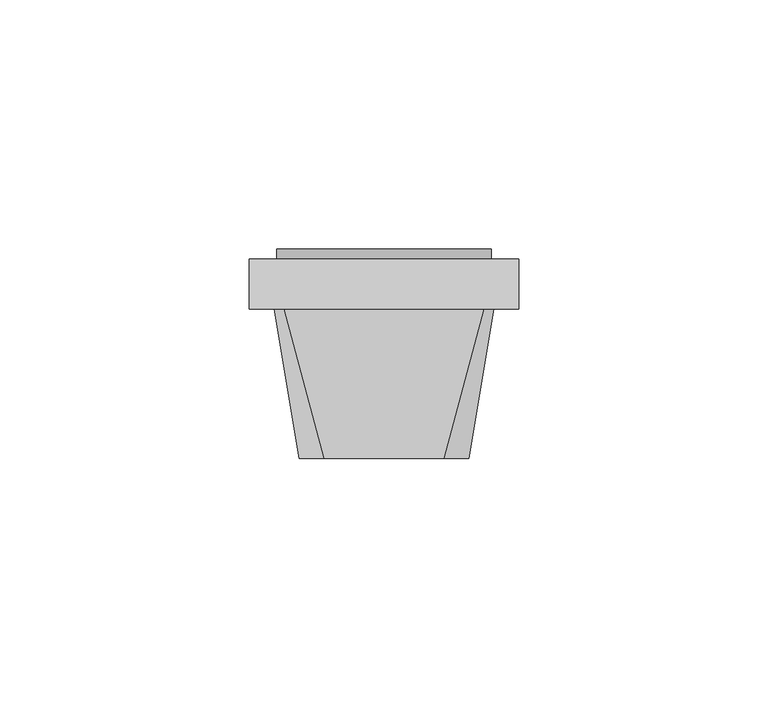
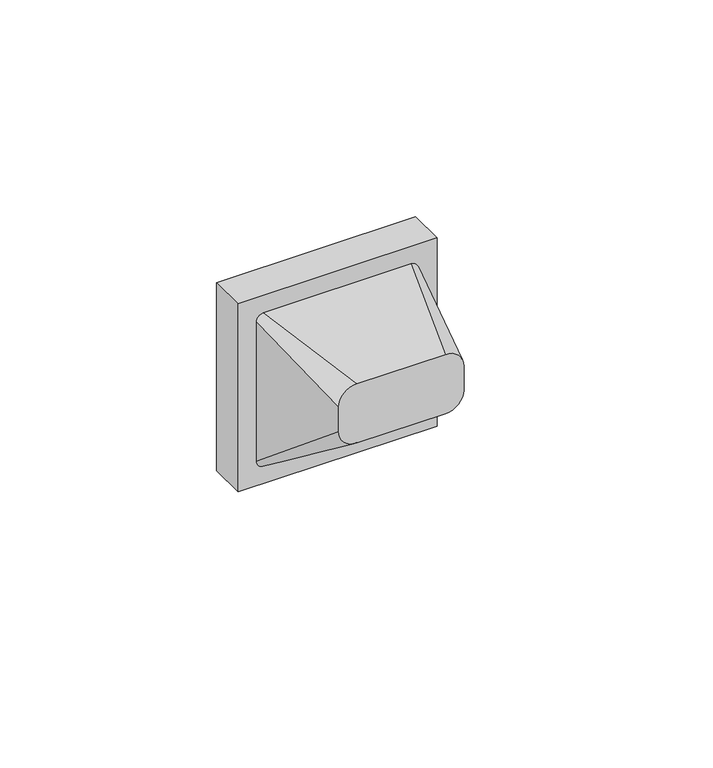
"""IFC4 building model written with IfcOpenShell, lengths in millimetres: proxy geometry, IEK_Brite_Механизм розетки 230В : 230 В PE+шт._РС14-1-0-БрА."""

from ifc_helpers import new_model, si_unit, point, frame, frame_2d, origin, origin_2d, place, context, project, spatial, polyline, circle_curve, ellipse_curve, trimmed, segment, composite_curve, outline, extrude, source, transform, mapped, element, save
from ifc_brep_helpers import plane_surface, cylinder_surface, revolved_surface, spline_surface, advanced_brep


def electrical_fixtures_c40738ce(model_context):
    return source(origin(), model_context, "Body", "SolidModel", [
        advanced_brep(
        [(-12.0, -30.0, 17.0), (-17.0, -30.0, 12.0), (-17.0, -30.0, 5.0), (-12.0, -30.0, 0.0), (12.0, -30.0, 0.0), (17.0, -30.0, 5.0), (17.0, -30.0, 12.0), (12.0, -30.0, 17.0), (-20.0, 0.0, 22.0), (20.0, 0.0, 22.0), (22.0, 0.0, 20.0), (22.0, 0.0, -20.0), (20.0, 0.0, -22.0), (-20.0, 0.0, -22.0), (-22.0, 0.0, -20.0), (-22.0, 0.0, 20.0), (-11.8753617, 0.0, 0.0), (-6.3904783, 0.0, 0.0), (-3.0105286, 0.0, 0.0), (3.0105286, 0.0, 0.0), (6.3904783, 0.0, 0.0), (11.8753617, 0.0, 0.0), (-1.7917908, 0.0, 19.3280847), (-1.7917908, 0.0, 16.8280847), (0.0, 0.0, 16.8280847), (1.7917908, 0.0, 16.8280847), (1.7917908, 0.0, 19.3280847), (0.0, 0.0, 19.3280847), (-1.7917908, 0.0, -19.3280847), (0.0, 0.0, -19.3280847), (1.7917908, 0.0, -19.3280847), (1.7917908, 0.0, -16.8280847), (0.0, 0.0, -16.8280847), (-1.7917908, 0.0, -16.8280847), (0.0, -3.6435209, -19.3280847), (-1.7917908, -3.6435209, -19.3280847), (-1.7917908, -7.0526118, -16.8280847), (0.0, -7.0526118, -16.8280847), (1.7917908, -7.0526118, -16.8280847), (1.7917908, -3.6435209, -19.3280847), (-11.8753617, -13.4962918, 0.0), (-6.3904783, -13.4962918, 0.0), (-3.0105286, -13.4962918, 0.0), (3.0105286, -13.4962918, 0.0), (6.3904783, -13.4962918, 0.0), (11.8753617, -13.4962918, 0.0), (-1.7917908, -13.4962918, 19.3280847), (0.0, -13.4962918, 19.3280847), (1.7917908, -13.4962918, 19.3280847), (1.7917908, -13.4962918, 16.8280847), (0.0, -13.4962918, 16.8280847), (-1.7917908, -13.4962918, 16.8280847)],
        [
            (0, 1, circle_curve(frame((-12.0, -30.0, 12.0), z_axis=(0.0, -1.0, 0.0), x_axis=(1.0, 0.0, 0.0)), 5.0)),
            (1, 2),
            (2, 3, circle_curve(frame((-12.0, -30.0, 5.0), z_axis=(0.0, -1.0, 0.0), x_axis=(1.0, 0.0, 0.0)), 5.0)),
            (3, 4),
            (4, 5, circle_curve(frame((12.0, -30.0, 5.0), z_axis=(0.0, -1.0, 0.0), x_axis=(1.0, 0.0, 0.0)), 5.0)),
            (5, 6),
            (6, 7, circle_curve(frame((12.0, -30.0, 12.0), z_axis=(0.0, -1.0, 0.0), x_axis=(1.0, 0.0, 0.0)), 5.0)),
            (7, 0),
            (8, 9),
            (9, 10, circle_curve(frame((20.0, 0.0, 20.0), z_axis=(0.0, 1.0, 0.0), x_axis=(1.0, 0.0, 0.0)), 2.0)),
            (10, 11),
            (11, 12, circle_curve(frame((20.0, 0.0, -20.0), z_axis=(0.0, 1.0, 0.0), x_axis=(1.0, 0.0, 0.0)), 2.0)),
            (12, 13),
            (13, 14, circle_curve(frame((-20.0, 0.0, -20.0), z_axis=(0.0, 1.0, 0.0), x_axis=(1.0, 0.0, 0.0)), 2.0)),
            (14, 15),
            (15, 8, circle_curve(frame((-20.0, 0.0, 20.0), z_axis=(0.0, 1.0, 0.0), x_axis=(1.0, 0.0, 0.0)), 2.0)),
            (16, 17, circle_curve(frame((-9.13292, 0.0, 0.0), z_axis=(0.0, -1.0, 0.0), x_axis=(1.0, 0.0, 0.0)), 2.7424417)),
            (17, 16, circle_curve(frame((-9.13292, 0.0, 0.0), z_axis=(0.0, -1.0, 0.0), x_axis=(1.0, 0.0, 0.0)), 2.7424417)),
            (18, 19, circle_curve(frame((0.0, 0.0, 0.0), z_axis=(0.0, -1.0, 0.0), x_axis=(1.0, 0.0, 0.0)), 3.0105286)),
            (19, 18, circle_curve(frame((0.0, 0.0, 0.0), z_axis=(0.0, -1.0, 0.0), x_axis=(1.0, 0.0, 0.0)), 3.0105286)),
            (20, 21, circle_curve(frame((9.13292, 0.0, 0.0), z_axis=(0.0, -1.0, 0.0), x_axis=(1.0, 0.0, 0.0)), 2.7424417)),
            (21, 20, circle_curve(frame((9.13292, 0.0, 0.0), z_axis=(0.0, -1.0, 0.0), x_axis=(1.0, 0.0, 0.0)), 2.7424417)),
            (22, 23),
            (23, 24),
            (24, 25),
            (25, 26),
            (26, 27),
            (27, 22),
            (28, 29),
            (29, 30),
            (30, 31),
            (31, 32),
            (32, 33),
            (33, 28),
            (7, 9),
            (8, 0),
            (6, 10),
            (5, 11),
            (4, 12),
            (3, 13),
            (34, 35),
            (35, 36),
            (36, 37),
            (37, 38),
            (38, 39),
            (39, 34),
            (2, 14),
            (1, 15),
            (40, 41, circle_curve(frame((-9.13292, -13.4962918, 0.0), z_axis=(0.0, 1.0, 0.0), x_axis=(1.0, 0.0, 0.0)), 2.7424417)),
            (41, 40, circle_curve(frame((-9.13292, -13.4962918, 0.0), z_axis=(0.0, 1.0, 0.0), x_axis=(1.0, 0.0, 0.0)), 2.7424417)),
            (42, 43, circle_curve(frame((0.0, -13.4962918, 0.0), z_axis=(0.0, 1.0, 0.0), x_axis=(1.0, 0.0, 0.0)), 3.0105286)),
            (43, 42, circle_curve(frame((0.0, -13.4962918, 0.0), z_axis=(0.0, 1.0, 0.0), x_axis=(1.0, 0.0, 0.0)), 3.0105286)),
            (44, 45, circle_curve(frame((9.13292, -13.4962918, 0.0), z_axis=(0.0, 1.0, 0.0), x_axis=(1.0, 0.0, 0.0)), 2.7424417)),
            (45, 44, circle_curve(frame((9.13292, -13.4962918, 0.0), z_axis=(0.0, 1.0, 0.0), x_axis=(1.0, 0.0, 0.0)), 2.7424417)),
            (46, 47),
            (47, 48),
            (48, 49),
            (49, 50),
            (50, 51),
            (51, 46),
            (41, 17),
            (16, 40),
            (43, 19),
            (18, 42),
            (45, 21),
            (20, 44),
            (51, 23),
            (22, 46),
            (50, 24),
            (49, 25),
            (48, 26),
            (47, 27),
            (28, 35),
            (34, 29),
            (39, 30),
            (38, 31),
            (37, 32),
            (36, 33),
        ],
        [
            plane_surface(frame((0.0, -30.0, 8.5), z_axis=(0.0, -1.0, 0.0), x_axis=(-1.0, 0.0, 0.0))),
            plane_surface(frame((0.0, 0.0, 0.0), z_axis=(0.0, 1.0, 0.0), x_axis=(-1.0, 0.0, 0.0))),
            plane_surface(frame((0.0, 0.0, 22.0), z_axis=(0.0, -0.16439898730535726, 0.9863939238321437), x_axis=(-1.0, 0.0, 0.0))),
            spline_surface(2, 1, [[(22.0, 0.0, 20.0), (17.0, -30.0, 12.0)], [(22.0, 0.0, 22.0), (17.0, -30.0, 17.0)], [(20.0, 0.0, 22.0), (12.0, -30.0, 17.0)]], [3, 3], [2, 2], [0.0, 1.0], [0.0, 1.0], weights=[[1.0, 1.0], [0.7071067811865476, 0.7071067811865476], [1.0, 1.0]]),
            plane_surface(frame((22.0, 0.0, 0.0), z_axis=(0.9863939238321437, -0.1643989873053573, 0.0), x_axis=(0.0, 0.0, 1.0))),
            spline_surface(2, 1, [[(20.0, 0.0, -22.0), (12.0, -30.0, 0.0)], [(22.0, 0.0, -22.0), (17.0, -30.0, 0.0)], [(22.0, 0.0, -20.0), (17.0, -30.0, 5.0)]], [3, 3], [2, 2], [0.0, 1.0], [0.0, 1.0], weights=[[1.0, 1.0], [0.7071067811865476, 0.7071067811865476], [1.0, 1.0]]),
            plane_surface(frame((0.0, 0.0, -22.0), z_axis=(0.0, -0.591363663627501, -0.8064049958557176), x_axis=(1.0, 0.0, 0.0))),
            spline_surface(2, 1, [[(-22.0, 0.0, -20.0), (-17.0, -30.0, 5.0)], [(-22.0, 0.0, -22.0), (-17.0, -30.0, 0.0)], [(-20.0, 0.0, -22.0), (-12.0, -30.0, 0.0)]], [3, 3], [2, 2], [0.0, 1.0], [0.0, 1.0], weights=[[1.0, 1.0], [0.7071067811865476, 0.7071067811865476], [1.0, 1.0]]),
            plane_surface(frame((-22.0, 0.0, 0.0), z_axis=(-0.9863939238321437, -0.1643989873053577, 0.0), x_axis=(0.0, 0.0, -1.0))),
            spline_surface(2, 1, [[(-20.0, 0.0, 22.0), (-12.0, -30.0, 17.0)], [(-22.0, 0.0, 22.0), (-17.0, -30.0, 17.0)], [(-22.0, 0.0, 20.0), (-17.0, -30.0, 12.0)]], [3, 3], [2, 2], [0.0, 1.0], [0.0, 1.0], weights=[[1.0, 1.0], [0.7071067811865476, 0.7071067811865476], [1.0, 1.0]]),
            plane_surface(frame((-6.3904783, -13.4962918, 0.0), z_axis=(0.0, 1.0, 0.0), x_axis=(0.0, 0.0, 1.0))),
            revolved_surface(polyline([(-6.3904783, -13.4962918, 0.0), (-6.3904783, 0.0, 0.0)]), (-9.13292, 0.0, 0.0), (0.0, -1.0, 0.0)),
            revolved_surface(polyline([(3.0105286, -13.4962918, 0.0), (3.0105286, 0.0, 0.0)]), (0.0, -2.0, 0.0), (0.0, -1.0, 0.0)),
            revolved_surface(polyline([(11.875361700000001, -13.4962918, 0.0), (11.875361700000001, 0.0, 0.0)]), (9.13292, -2.0, 0.0), (0.0, -1.0, 0.0)),
            plane_surface(frame((-1.7917908, -13.4962918, 19.3280847), z_axis=(1.0, 0.0, 0.0), x_axis=(0.0, 1.0, 0.0))),
            plane_surface(frame((-1.7917908, -13.4962918, 16.8280847), z_axis=(0.0, 0.0, 1.0), x_axis=(0.0, 1.0, 0.0))),
            plane_surface(frame((0.0, -13.4962918, 16.8280847), z_axis=(0.0, 0.0, 1.0), x_axis=(0.0, 1.0, 0.0))),
            plane_surface(frame((1.7917908, -13.4962918, 16.8280847), z_axis=(-1.0, 0.0, 0.0), x_axis=(0.0, 1.0, 0.0))),
            plane_surface(frame((1.7917908, -13.4962918, 19.3280847), z_axis=(0.0, 0.0, -1.0), x_axis=(0.0, 1.0, 0.0))),
            plane_surface(frame((0.0, -13.4962918, 19.3280847), z_axis=(0.0, 0.0, -1.0), x_axis=(0.0, 1.0, 0.0))),
            plane_surface(frame((-1.7917908, -13.4962918, -19.3280847), z_axis=(0.0, 0.0, 1.0), x_axis=(0.0, 1.0, 0.0))),
            plane_surface(frame((0.0, -13.4962918, -19.3280847), z_axis=(0.0, 0.0, 1.0), x_axis=(0.0, 1.0, 0.0))),
            plane_surface(frame((1.7917908, -13.4962918, -19.3280847), z_axis=(-1.0, 0.0, 0.0), x_axis=(0.0, 1.0, 0.0))),
            plane_surface(frame((1.7917908, -13.4962918, -16.8280847), z_axis=(0.0, 0.0, -1.0), x_axis=(0.0, 1.0, 0.0))),
            plane_surface(frame((0.0, -13.4962918, -16.8280847), z_axis=(0.0, 0.0, -1.0), x_axis=(0.0, 1.0, 0.0))),
            plane_surface(frame((-1.7917908, -13.4962918, -16.8280847), z_axis=(1.0, 0.0, 0.0), x_axis=(0.0, 1.0, 0.0))),
        ],
        [
            (0, [[1, 2, 3, 4, 5, 6, 7, 8]]),
            (1, [[9, 10, 11, 12, 13, 14, 15, 16], [17, 18], [19, 20], [21, 22], [23, 24, 25, 26, 27, 28], [29, 30, 31, 32, 33, 34]]),
            (2, [[-8, 35, -9, 36]]),
            (3, [[-7, 37, -10, -35]]),
            (4, [[-6, 38, -11, -37]]),
            (5, [[-5, 39, -12, -38]]),
            (6, [[-4, 40, -13, -39], [41, 42, 43, 44, 45, 46]]),
            (7, [[-3, 47, -14, -40]]),
            (8, [[-2, 48, -15, -47]]),
            (9, [[-1, -36, -16, -48]]),
            (10, [[49, 50]]),
            (10, [[51, 52]]),
            (10, [[53, 54]]),
            (10, [[55, 56, 57, 58, 59, 60]]),
            (11, [[-50, 61, -17, 62]]),
            (11, [[-49, -62, -18, -61]]),
            (12, [[-52, 63, -19, 64]]),
            (12, [[-51, -64, -20, -63]]),
            (13, [[-54, 65, -21, 66]]),
            (13, [[-53, -66, -22, -65]]),
            (14, [[-60, 67, -23, 68]]),
            (15, [[-59, 69, -24, -67]]),
            (16, [[-58, 70, -25, -69]]),
            (17, [[-57, 71, -26, -70]]),
            (18, [[-56, 72, -27, -71]]),
            (19, [[-55, -68, -28, -72]]),
            (20, [[73, -41, 74, -29]]),
            (21, [[-74, -46, 75, -30]]),
            (22, [[-75, -45, 76, -31]]),
            (23, [[-76, -44, 77, -32]]),
            (24, [[-77, -43, 78, -33]]),
            (25, [[-73, -34, -78, -42]]),
        ],
    ),
        advanced_brep(
        [(20.0, 0.0, 0.0), (20.0, 10.0, 0.0), (-20.0, 10.0, 0.0), (-20.0, 0.0, 0.0), (-27.0, 10.0, 27.0), (27.0, 10.0, 27.0), (27.0, 10.0, -27.0), (-27.0, 10.0, -27.0), (21.5, 10.0, 0.0), (-21.5, 10.0, 0.0), (-27.0, 0.0, 27.0), (-27.0, 0.0, -27.0), (27.0, 0.0, -27.0), (27.0, 0.0, 27.0), (-21.5, 12.0, 0.0), (21.5, 12.0, 0.0), (-20.0, 12.0, 0.0), (20.0, 12.0, 0.0)],
        [
            (0, 1),
            (1, 2, circle_curve(frame((0.0, 10.0, 0.0), z_axis=(0.0, 1.0, 0.0), x_axis=(1.0, 0.0, 0.0)), 20.0)),
            (2, 3),
            (3, 0, circle_curve(frame((0.0, 0.0, 0.0), z_axis=(0.0, -1.0, 0.0), x_axis=(1.0, 0.0, 0.0)), 20.0)),
            (0, 3, circle_curve(frame((0.0, 0.0, 0.0), z_axis=(0.0, -1.0, 0.0), x_axis=(1.0, 0.0, 0.0)), 20.0)),
            (2, 1, circle_curve(frame((0.0, 10.0, 0.0), z_axis=(0.0, 1.0, 0.0), x_axis=(1.0, 0.0, 0.0)), 20.0)),
            (4, 5),
            (5, 6),
            (6, 7),
            (7, 4),
            (8, 9, circle_curve(frame((0.0, 10.0, 0.0), z_axis=(0.0, -1.0, 0.0), x_axis=(-1.0, 0.0, 0.0)), 21.5)),
            (9, 8, circle_curve(frame((0.0, 10.0, 0.0), z_axis=(0.0, -1.0, 0.0), x_axis=(-1.0, 0.0, 0.0)), 21.5)),
            (10, 11),
            (11, 12),
            (12, 13),
            (13, 10),
            (7, 11),
            (10, 4),
            (6, 12),
            (5, 13),
            (14, 15, circle_curve(frame((0.0, 12.0, 0.0), z_axis=(0.0, 1.0, 0.0), x_axis=(-1.0, 0.0, 0.0)), 21.5)),
            (15, 14, circle_curve(frame((0.0, 12.0, 0.0), z_axis=(0.0, 1.0, 0.0), x_axis=(-1.0, 0.0, 0.0)), 21.5)),
            (16, 17, circle_curve(frame((0.0, 12.0, 0.0), z_axis=(0.0, -1.0, 0.0), x_axis=(-1.0, 0.0, 0.0)), 20.0)),
            (17, 16, circle_curve(frame((0.0, 12.0, 0.0), z_axis=(0.0, -1.0, 0.0), x_axis=(-1.0, 0.0, 0.0)), 20.0)),
            (16, 2),
            (1, 17),
            (14, 9),
            (8, 15),
        ],
        [
            revolved_surface(polyline([(20.0, 0.0, 0.0), (20.0, 10.0, 0.0)]), (0.0, 10.0, 0.0), (0.0, -1.0, 0.0)),
            plane_surface(frame((-27.0, 10.0, -27.0), z_axis=(0.0, 1.0, 0.0), x_axis=(0.0, 0.0, 1.0))),
            plane_surface(frame((-27.0, 0.0, -27.0), z_axis=(0.0, -1.0, 0.0), x_axis=(0.0, 0.0, -1.0))),
            plane_surface(frame((-27.0, 0.0, 27.0), z_axis=(-1.0, 0.0, 0.0), x_axis=(0.0, 1.0, 0.0))),
            plane_surface(frame((-27.0, 0.0, -27.0), z_axis=(0.0, 0.0, -1.0), x_axis=(0.0, 1.0, 0.0))),
            plane_surface(frame((27.0, 0.0, -27.0), z_axis=(1.0, 0.0, 0.0), x_axis=(0.0, 1.0, 0.0))),
            plane_surface(frame((27.0, 0.0, 27.0), z_axis=(0.0, 0.0, 1.0), x_axis=(0.0, 1.0, 0.0))),
            plane_surface(frame((-20.0, 12.0, 0.0), z_axis=(0.0, 1.0, 0.0), x_axis=(0.0, 0.0, -1.0))),
            revolved_surface(polyline([(-20.0, 10.0, 0.0), (-20.0, 12.0, 0.0)]), (0.0, 10.0, 0.0), (0.0, -1.0, 0.0)),
            cylinder_surface(frame((0.0, 10.0, 0.0), z_axis=(0.0, 1.0, 0.0), x_axis=(-1.0, 0.0, 0.0)), 21.5),
        ],
        [
            (0, [[1, 2, 3, 4]]),
            (0, [[-1, 5, -3, 6]]),
            (1, [[7, 8, 9, 10], [11, 12]]),
            (2, [[13, 14, 15, 16], [-4, -5]]),
            (3, [[-10, 17, -13, 18]]),
            (4, [[-9, 19, -14, -17]]),
            (5, [[-8, 20, -15, -19]]),
            (6, [[-7, -18, -16, -20]]),
            (7, [[21, 22], [23, 24]]),
            (8, [[-23, 25, -2, 26]]),
            (8, [[-24, -26, -6, -25]]),
            (9, [[-21, 27, -11, 28]]),
            (9, [[-22, -28, -12, -27]]),
        ],
    ),
        extrude(outline(composite_curve([segment(trimmed(circle_curve(frame_2d((6.4251956, 19.2322549)), 1.2539127), [point((7.6710794, 19.3739261))], [point((5.5330873, 18.3510967))], False, "CARTESIAN"), True, "CONTINUOUS"), segment(polyline([(5.5330873, 18.3510967), (-1.7, 17.5095674), (-1.7, 18.7042816), (7.6710794, 19.3739261)]), True, "CONTINUOUS")], self_intersect=False)), frame((-1.5, 0.0, 0.0), z_axis=(1.0, 0.0, 0.0), x_axis=(0.0, 1.0, 0.0)), (0.0, 0.0, 1.0), 3.0),
        extrude(outline(composite_curve([segment(polyline([(7.6710794, -19.3739261), (-1.7, -18.7042816), (-1.7, -17.5095674), (5.5330873, -18.3510967)]), True, "CONTINUOUS"), segment(trimmed(circle_curve(frame_2d((6.4251956, -19.2322549)), 1.2539127), [point((5.5330873, -18.3510967))], [point((7.6710794, -19.3739261))], False, "CARTESIAN"), True, "CONTINUOUS")], self_intersect=False)), frame((-1.5, 0.0, 0.0), z_axis=(1.0, 0.0, 0.0), x_axis=(0.0, 1.0, 0.0)), (0.0, 0.0, 1.0), 3.0),
        advanced_brep(
        [(0.0, 0.078125, -2.8986917), (0.0, 0.078125, 2.8986917), (0.0, 0.8649081, 0.0), (0.0, -1.7, -2.8986917), (0.0, -1.7, 2.8986917), (0.0, -1.7, 0.0)],
        [
            (0, 1, circle_curve(frame((0.0, 0.078125, 0.0), z_axis=(0.0, 1.0, 0.0), x_axis=(0.0, 0.0, 1.0)), 2.8986917)),
            (1, 2, ellipse_curve(frame((0.0, 0.078125, 0.15625), z_axis=(-1.0, 0.0, 0.0), x_axis=(0.0, 0.0, 1.0)), 2.7424417, 0.7880633)),
            (2, 0, ellipse_curve(frame((0.0, 0.078125, -0.15625), z_axis=(-1.0, 0.0, 0.0), x_axis=(0.0, 0.0, -1.0)), 2.7424417, 0.7880633)),
            (1, 0, circle_curve(frame((0.0, 0.078125, 0.0), z_axis=(0.0, 1.0, 0.0), x_axis=(0.0, 0.0, 1.0)), 2.8986917)),
            (3, 4, circle_curve(frame((0.0, -1.7, 0.0), z_axis=(0.0, 1.0, 0.0), x_axis=(0.0, 0.0, 1.0)), 2.8986917)),
            (4, 1),
            (0, 3),
            (4, 3, circle_curve(frame((0.0, -1.7, 0.0), z_axis=(0.0, 1.0, 0.0), x_axis=(0.0, 0.0, 1.0)), 2.8986917)),
            (5, 4),
            (3, 5),
        ],
        [
            revolved_surface(trimmed(ellipse_curve(frame((0.0, 0.078125, 0.15625), z_axis=(1.0, 0.0, 0.0), x_axis=(0.0, 0.0, 1.0)), 2.7424417, 0.7880633), [point((0.0, 0.8649081, 0.0))], [point((0.0, 0.078125, 2.8986917))], True, "CARTESIAN"), (0.0, -3.0228134, 0.0), (0.0, -1.0, 0.0)),
            cylinder_surface(frame((0.0, -3.0228134, 0.0), z_axis=(0.0, -1.0, 0.0), x_axis=(0.0, 0.0, 1.0)), 2.8986917),
            plane_surface(frame((0.0, -1.7, 0.0), z_axis=(0.0, -1.0, 0.0), x_axis=(0.0, 0.0, 1.0))),
        ],
        [
            (0, [[1, 2, 3]]),
            (0, [[4, -3, -2]]),
            (1, [[5, 6, -1, 7]]),
            (1, [[8, -7, -4, -6]]),
            (2, [[9, -5, 10]]),
            (2, [[-10, -8, -9]]),
        ],
    ),
        extrude(outline(composite_curve([segment(polyline([(3.2980592, -16.488464), (11.3194768, -16.488464)]), True, "CONTINUOUS"), segment(trimmed(circle_curve(origin_2d(), 20.0), [point((11.3194768, -16.488464))], [point((3.2980592, -19.7261959))], False, "CARTESIAN"), True, "CONTINUOUS"), segment(polyline([(3.2980592, -19.7261959), (3.2980592, -16.488464)]), True, "CONTINUOUS")], self_intersect=False)), frame((0.0, 0.0, 0.0), z_axis=(0.0, 1.0, 0.0), x_axis=(0.0, 0.0, 1.0)), (0.0, 0.0, 1.0), 8.0),
        extrude(outline(composite_curve([segment(polyline([(-3.2980592, -16.488464), (-3.2980592, -19.7261959)]), True, "CONTINUOUS"), segment(trimmed(circle_curve(origin_2d(), 20.0), [point((-3.2980592, -19.7261959))], [point((-11.3194768, -16.488464))], False, "CARTESIAN"), True, "CONTINUOUS"), segment(polyline([(-11.3194768, -16.488464), (-3.2980592, -16.488464)]), True, "CONTINUOUS")], self_intersect=False)), frame((0.0, 0.0, 0.0), z_axis=(0.0, 1.0, 0.0), x_axis=(0.0, 0.0, 1.0)), (0.0, 0.0, 1.0), 8.0),
        extrude(outline(composite_curve([segment(polyline([(3.2980592, 16.488464), (3.2980592, 19.7261959)]), True, "CONTINUOUS"), segment(trimmed(circle_curve(origin_2d(), 20.0), [point((3.2980592, 19.7261959))], [point((11.3194768, 16.488464))], False, "CARTESIAN"), True, "CONTINUOUS"), segment(polyline([(11.3194768, 16.488464), (3.2980592, 16.488464)]), True, "CONTINUOUS")], self_intersect=False)), frame((0.0, 0.0, 0.0), z_axis=(0.0, 1.0, 0.0), x_axis=(0.0, 0.0, 1.0)), (0.0, 0.0, 1.0), 8.0),
        extrude(outline(composite_curve([segment(polyline([(-3.2980592, 16.488464), (-11.3194768, 16.488464)]), True, "CONTINUOUS"), segment(trimmed(circle_curve(origin_2d(), 20.0), [point((-11.3194768, 16.488464))], [point((-3.2980592, 19.7261959))], False, "CARTESIAN"), True, "CONTINUOUS"), segment(polyline([(-3.2980592, 19.7261959), (-3.2980592, 16.488464)]), True, "CONTINUOUS")], self_intersect=False)), frame((0.0, 0.0, 0.0), z_axis=(0.0, 1.0, 0.0), x_axis=(0.0, 0.0, 1.0)), (0.0, 0.0, 1.0), 8.0),
    ])


if __name__ == "__main__":
    model = new_model("IFC4")
    model_context = context("Model", 3, world=origin())
    ifc_project = project(units=[si_unit("LENGTHUNIT", "METRE", prefix="MILLI")], contexts=[model_context])
    site = spatial("IfcSite", under=ifc_project)
    building = spatial("IfcBuilding", under=site)
    placement = place(None, origin())
    electrical_fixtures_shape = electrical_fixtures_c40738ce(model_context)
    element("IfcBuildingElementProxy", 1, Name="IEK_Brite_Механизм розетки 230В : 230 В PE+шт._РС14-1-0-БрА", ObjectType="IEK_Brite_Механизм розетки 230В : 230 В PE+шт._РС14-1-0-БрА", at=placement, inside=building, context=model_context, shape_type="MappedRepresentation", body=[
        mapped(electrical_fixtures_shape, transform((0.0, 0.0, 0.0), x_axis=(1.0, 0.0, 0.0), y_axis=(0.0, 1.0, 0.0), z_axis=(0.0, 0.0, 1.0))),
    ])
    save(model, "model.ifc")
